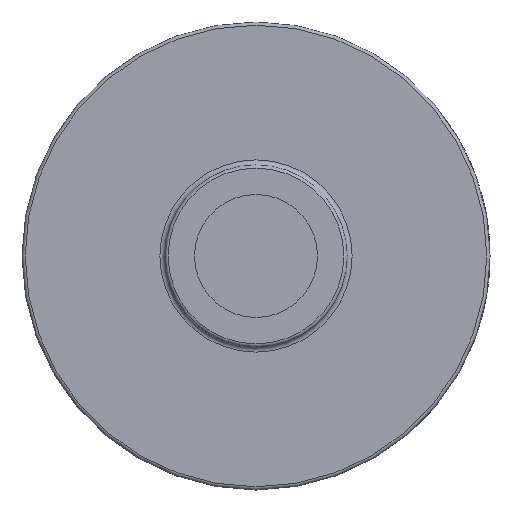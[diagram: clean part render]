
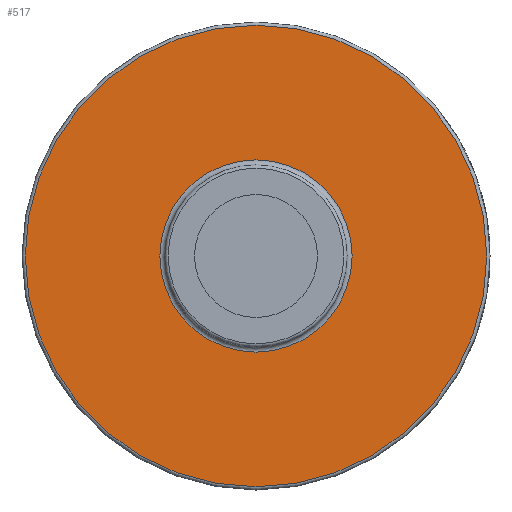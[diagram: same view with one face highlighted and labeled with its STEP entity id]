
A CAD part, left-side view. The second image highlights one B-rep face of the part: STEP entity #517.
In plain terms, the highlighted planar face has unit normal (-1, 0, 0).
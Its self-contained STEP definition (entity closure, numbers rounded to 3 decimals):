
#517 = ADVANCED_FACE( '', ( #1121, #1122 ), #1123, .F. );
#1121 = FACE_OUTER_BOUND( '', #2748, .T. );
#1122 = FACE_BOUND( '', #2749, .T. );
#1123 = PLANE( '', #2750 );
#2748 = EDGE_LOOP( '', ( #4482 ) );
#2749 = EDGE_LOOP( '', ( #4483 ) );
#2750 = AXIS2_PLACEMENT_3D( '', #4484, #4485, #4486 );
#4482 = ORIENTED_EDGE( '', *, *, #5446, .T. );
#4483 = ORIENTED_EDGE( '', *, *, #5495, .T. );
#4484 = CARTESIAN_POINT( '', ( 15.646, 0., 36.703 ) );
#4485 = DIRECTION( '', ( 1., 0., 0. ) );
#4486 = DIRECTION( '', ( 0., 0., -1. ) );
#5446 = EDGE_CURVE( '', #6453, #6453, #6454, .F. );
#5495 = EDGE_CURVE( '', #6514, #6514, #6515, .T. );
#6453 = VERTEX_POINT( '', #8887 );
#6454 = CIRCLE( '', #8888, 36.195 );
#6514 = VERTEX_POINT( '', #9025 );
#6515 = CIRCLE( '', #9026, 15.075 );
#8887 = CARTESIAN_POINT( '', ( 15.646, 0., -36.195 ) );
#8888 = AXIS2_PLACEMENT_3D( '', #9318, #9319, #9320 );
#9025 = CARTESIAN_POINT( '', ( 15.646, 0., -15.075 ) );
#9026 = AXIS2_PLACEMENT_3D( '', #9321, #9322, #9323 );
#9318 = CARTESIAN_POINT( '', ( 15.646, 0., 0. ) );
#9319 = DIRECTION( '', ( 1., 0., 0. ) );
#9320 = DIRECTION( '', ( 0., 0., -1. ) );
#9321 = CARTESIAN_POINT( '', ( 15.646, 0., 0. ) );
#9322 = DIRECTION( '', ( 1., 0., 0. ) );
#9323 = DIRECTION( '', ( 0., 0., -1. ) );
